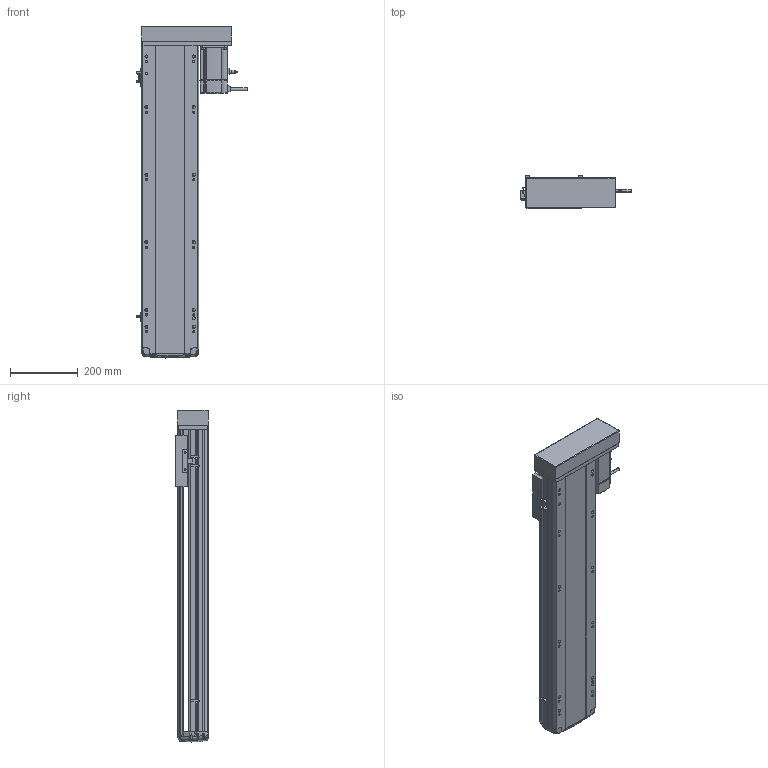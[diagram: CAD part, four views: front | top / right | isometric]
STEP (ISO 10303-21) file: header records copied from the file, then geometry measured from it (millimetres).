
FILE_DESCRIPTION (( 'STEP AP214' ), '1' );
FILE_NAME ('RTH17-XX-700-L-M75-C4.STEP', '2025-10-24T10:33:40', ( '' ), ( '' ), 'SwSTEP 2.0', 'SolidWorks 2018', '' );
FILE_SCHEMA (( 'AUTOMOTIVE_DESIGN' ));
Length unit declared in the file: millimetre
Products named in the file (10): N_RTH17-L-018盖子^RTH17-XX-XX-L-M75-C4（方程式）; N_RTH-L-012 感应片(外置)^RTH17-XX-XX-L-M75-C4（方程式）; N_RTH17-M-007上盖^RTH17-XX-XX-L-M75-C4（方程式）; N_OMRON EE-SX672 換覜ん^RTH17-XX-XX-L-M75-C4ㄗ源最宒ㄘ; N_RTH17-GY-001P^RTH17-XX-XX-L-M75-C4（方程式）; RTH17-XX-700-L-M75-C4; N_RTH17-E-004丝杆螺母连接座^RTH17-XX-XX-L-M75-C4（方程式）; N_M75^RTH17-XX-XX-L-M75-C4（方程式）; N_RTH17-L-008-P75电机安装板左转折^RTH17-XX-XX-L-M75-C4（方程式）; N_RTH17-M-011底座^RTH17-XX-XX-L-M75-C4（方程式）
Assembly tree (11 placements, depth 2):
  RTH17-XX-700-L-M75-C4
    N_RTH17-M-011底座^RTH17-XX-XX-L-M75-C4（方程式）
    N_RTH17-M-007上盖^RTH17-XX-XX-L-M75-C4（方程式）
    N_M75^RTH17-XX-XX-L-M75-C4（方程式）
    N_OMRON EE-SX672 換覜ん^RTH17-XX-XX-L-M75-C4ㄗ源最宒ㄘ  x3
    N_RTH-L-012 感应片(外置)^RTH17-XX-XX-L-M75-C4（方程式）
    N_RTH17-L-008-P75电机安装板左转折^RTH17-XX-XX-L-M75-C4（方程式）
    N_RTH17-L-018盖子^RTH17-XX-XX-L-M75-C4（方程式）
    N_RTH17-E-004丝杆螺母连接座^RTH17-XX-XX-L-M75-C4（方程式）
    N_RTH17-GY-001P^RTH17-XX-XX-L-M75-C4（方程式）
Bounding box: 326.7 x 97 x 982.99 mm (x, y, z)
Volume: 9175292.7 mm3; surface area: 1152944.1 mm2
Topology: 13 solids, 15 shells, 1757 faces, 4835 edges, 3130 vertices
Faces by surface type: plane 833, cylinder 510, bspline 377, cone 28, torus 9
Entity records: 51269 total; most frequent: CARTESIAN_POINT 20495, ORIENTED_EDGE 6694, DIRECTION 5563, EDGE_CURVE 3351, VERTEX_POINT 2166, AXIS2_PLACEMENT_3D 1873, LINE 1817, VECTOR 1817
